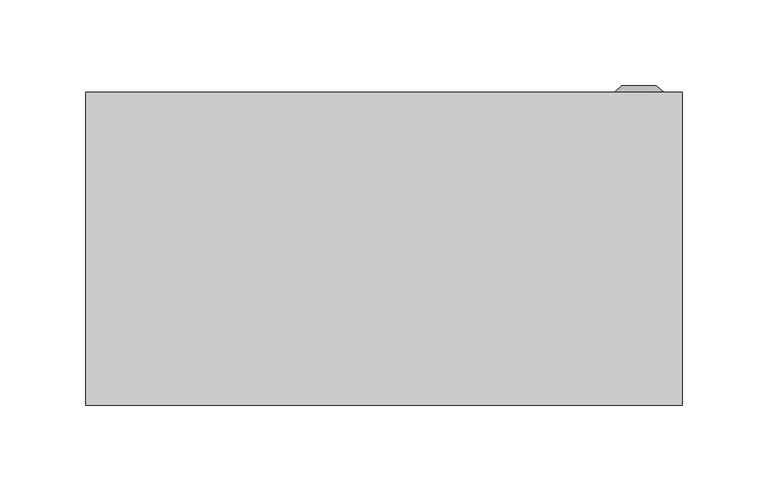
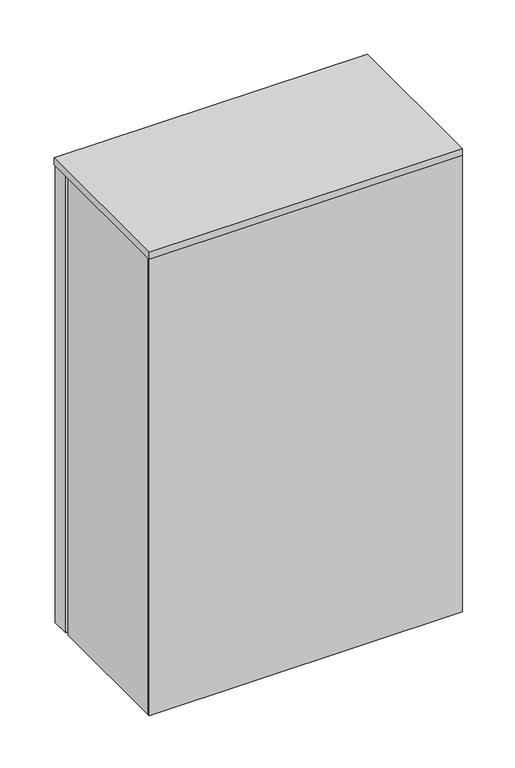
"""IFC4 building model written with IfcOpenShell, lengths in millimetres: proxy geometry, ЩУ-3ф_1-0-12_с опломбировкой_IP66 : ЩУ-3ф/1-0-12 с опломбировкой счетчика_IP66."""

from ifc_helpers import new_model, si_unit, point, frame, frame_2d, origin, origin_with_axes, place, context, project, spatial, polyline, circle_curve, trimmed, segment, composite_curve, outline, extrude, source, transform, mapped, element, save
from ifc_brep_helpers import plane_surface, cylinder_surface, revolved_surface, advanced_brep


def electrical_equipment_11ccc84e(model_context):
    return source(origin(), model_context, "Body", "SolidModel", [
        extrude(outline(polyline([(173.5, 0.0), (-173.5033905, 0.0), (-173.5033905, 182.366592), (173.5, 182.366592), (173.5, 0.0)])), frame((0.0, 0.0, 534.0), z_axis=(0.0, 0.0, 1.0), x_axis=(1.0, 0.0, 0.0)), (0.0, 0.0, 1.0), 8.0),
        extrude(outline(composite_curve([segment(trimmed(circle_curve(frame_2d((397.0, -13.5)), 5.0), [point((392.0, -13.5))], [point((397.0, -8.5))], False, "CARTESIAN"), True, "CONTINUOUS"), segment(polyline([(397.0, -8.5), (457.0, -8.5)]), True, "CONTINUOUS"), segment(trimmed(circle_curve(frame_2d((457.0, -13.5)), 5.0), [point((457.0, -8.5))], [point((462.0, -13.5))], False, "CARTESIAN"), True, "CONTINUOUS"), segment(polyline([(462.0, -13.5), (462.0, -113.5)]), True, "CONTINUOUS"), segment(trimmed(circle_curve(frame_2d((457.0, -113.5)), 5.0), [point((462.0, -113.5))], [point((457.0, -118.5))], False, "CARTESIAN"), True, "CONTINUOUS"), segment(polyline([(457.0, -118.5), (397.0, -118.5)]), True, "CONTINUOUS"), segment(trimmed(circle_curve(frame_2d((397.0, -113.5)), 5.0), [point((397.0, -118.5))], [point((392.0, -113.5))], False, "CARTESIAN"), True, "CONTINUOUS"), segment(polyline([(392.0, -113.5), (392.0, -13.5)]), True, "CONTINUOUS")], self_intersect=False)), frame((0.0, 178.0, 0.0), z_axis=(0.0, 1.0, 0.0), x_axis=(0.0, 0.0, 1.0)), (0.0, 0.0, 1.0), 2.0),
        advanced_brep(
        [(-173.5, 160.0, 534.0), (-173.5, 160.0, 0.0), (173.5, 160.0, 0.0), (173.5, 160.0, 534.0), (171.4966095, 160.0, 534.0), (171.4966095, 160.0, 2.0), (-171.5033905, 160.0, 2.0), (-171.5033905, 160.0, 534.0), (-173.5, 180.0, 534.0), (173.5, 180.0, 534.0), (173.5, 180.0, 0.0), (-173.5, 180.0, 0.0), (-113.5, 180.0, 462.0), (-118.5, 180.0, 457.0), (-118.5, 180.0, 397.0), (-113.5, 180.0, 392.0), (-13.5, 180.0, 392.0), (-8.5, 180.0, 397.0), (-8.5, 180.0, 457.0), (-13.5, 180.0, 462.0), (-171.5033905, 178.0, 534.0), (171.4966095, 178.0, 534.0), (-171.5033905, 178.0, 2.0), (171.4966095, 178.0, 2.0), (-113.5, 178.0, 462.0), (-13.5, 178.0, 462.0), (-8.5, 178.0, 457.0), (-8.5, 178.0, 397.0), (-13.5, 178.0, 392.0), (-113.5, 178.0, 392.0), (-118.5, 178.0, 397.0), (-118.5, 178.0, 457.0)],
        [
            (0, 1),
            (1, 2),
            (2, 3),
            (3, 4),
            (4, 5),
            (5, 6),
            (6, 7),
            (7, 0),
            (8, 9),
            (9, 10),
            (10, 11),
            (11, 8),
            (12, 13, circle_curve(frame((-113.5, 180.0, 457.0), z_axis=(0.0, -1.0, 0.0), x_axis=(1.0, 0.0, 0.0)), 5.0)),
            (13, 14),
            (14, 15, circle_curve(frame((-113.5, 180.0, 397.0), z_axis=(0.0, -1.0, 0.0), x_axis=(1.0, 0.0, 0.0)), 5.0)),
            (15, 16),
            (16, 17, circle_curve(frame((-13.5, 180.0, 397.0), z_axis=(0.0, -1.0, 0.0), x_axis=(1.0, 0.0, 0.0)), 5.0)),
            (17, 18),
            (18, 19, circle_curve(frame((-13.5, 180.0, 457.0), z_axis=(0.0, -1.0, 0.0), x_axis=(1.0, 0.0, 0.0)), 5.0)),
            (19, 12),
            (0, 8),
            (11, 1),
            (10, 2),
            (9, 3),
            (7, 20),
            (20, 21),
            (21, 4),
            (22, 23),
            (23, 21),
            (20, 22),
            (24, 25),
            (25, 26, circle_curve(frame((-13.5, 178.0, 457.0), z_axis=(0.0, 1.0, 0.0), x_axis=(1.0, 0.0, 0.0)), 5.0)),
            (26, 27),
            (27, 28, circle_curve(frame((-13.5, 178.0, 397.0), z_axis=(0.0, 1.0, 0.0), x_axis=(1.0, 0.0, 0.0)), 5.0)),
            (28, 29),
            (29, 30, circle_curve(frame((-113.5, 178.0, 397.0), z_axis=(0.0, 1.0, 0.0), x_axis=(1.0, 0.0, 0.0)), 5.0)),
            (30, 31),
            (31, 24, circle_curve(frame((-113.5, 178.0, 457.0), z_axis=(0.0, 1.0, 0.0), x_axis=(1.0, 0.0, 0.0)), 5.0)),
            (6, 22),
            (5, 23),
            (19, 25),
            (24, 12),
            (18, 26),
            (17, 27),
            (16, 28),
            (15, 29),
            (14, 30),
            (13, 31),
        ],
        [
            plane_surface(frame((-173.5, 160.0, 537.0), z_axis=(0.0, -1.0, 0.0), x_axis=(0.0, 0.0, -1.0))),
            plane_surface(frame((-173.5, 180.0, 537.0), z_axis=(0.0, 1.0, 0.0), x_axis=(0.0, 0.0, 1.0))),
            plane_surface(frame((-173.5, 160.0, 534.0), z_axis=(-1.0, 0.0, 0.0), x_axis=(0.0, 1.0, 0.0))),
            plane_surface(frame((-173.5, 160.0, 0.0), z_axis=(0.0, 0.0, -1.0), x_axis=(0.0, 1.0, 0.0))),
            plane_surface(frame((173.5, 160.0, 0.0), z_axis=(1.0, 0.0, 0.0), x_axis=(0.0, 1.0, 0.0))),
            plane_surface(frame((173.5, 160.0, 534.0), z_axis=(0.0, 0.0, 1.0), x_axis=(0.0, 1.0, 0.0))),
            plane_surface(frame((-171.5033905, 178.0, 540.0), z_axis=(0.0, -1.0, 0.0), x_axis=(0.0, 0.0, 1.0))),
            plane_surface(frame((-171.5033905, 160.0, 540.0), z_axis=(1.0, 0.0, 0.0), x_axis=(0.0, 1.0, 0.0))),
            plane_surface(frame((-171.5033905, 160.0, 2.0), z_axis=(0.0, 0.0, 1.0), x_axis=(0.0, 1.0, 0.0))),
            plane_surface(frame((171.4966095, 160.0, 2.0), z_axis=(-1.0, 0.0, 0.0), x_axis=(0.0, 1.0, 0.0))),
            plane_surface(frame((-113.5, 160.0, 462.0), z_axis=(0.0, 0.0, -1.0), x_axis=(0.0, 1.0, 0.0))),
            revolved_surface(polyline([(-8.5, 180.0, 457.0), (-8.5, 178.0, 457.0)]), (-13.5, 0.0, 457.0), (0.0, 1.0, 0.0)),
            plane_surface(frame((-8.5, 160.0, 457.0), z_axis=(-1.0, 0.0, 0.0), x_axis=(0.0, 1.0, 0.0))),
            revolved_surface(polyline([(-8.5, 180.0, 397.0), (-8.5, 178.0, 397.0)]), (-13.5, 0.0, 397.0), (0.0, 1.0, 0.0)),
            plane_surface(frame((-13.5, 160.0, 392.0), z_axis=(0.0, 0.0, 1.0), x_axis=(0.0, 1.0, 0.0))),
            revolved_surface(polyline([(-108.5, 180.0, 397.0), (-108.5, 178.0, 397.0)]), (-113.5, 0.0, 397.0), (0.0, 1.0, 0.0)),
            plane_surface(frame((-118.5, 160.0, 397.0), z_axis=(1.0, 0.0, 0.0), x_axis=(0.0, 1.0, 0.0))),
            revolved_surface(polyline([(-108.5, 180.0, 457.0), (-108.5, 178.0, 457.0)]), (-113.5, 0.0, 457.0), (0.0, 1.0, 0.0)),
        ],
        [
            (0, [[1, 2, 3, 4, 5, 6, 7, 8]]),
            (1, [[9, 10, 11, 12], [13, 14, 15, 16, 17, 18, 19, 20]]),
            (2, [[-1, 21, -12, 22]]),
            (3, [[-2, -22, -11, 23]]),
            (4, [[-3, -23, -10, 24]]),
            (5, [[-9, -21, -8, 25, 26, 27, -4, -24]]),
            (6, [[28, 29, -26, 30], [31, 32, 33, 34, 35, 36, 37, 38]]),
            (7, [[39, -30, -25, -7]]),
            (8, [[-28, -39, -6, 40]]),
            (9, [[-40, -5, -27, -29]]),
            (10, [[-20, 41, -31, 42]]),
            (11, [[-19, 43, -32, -41]]),
            (12, [[-18, 44, -33, -43]]),
            (13, [[-17, 45, -34, -44]]),
            (14, [[-16, 46, -35, -45]]),
            (15, [[-15, 47, -36, -46]]),
            (16, [[-14, 48, -37, -47]]),
            (17, [[-13, -42, -38, -48]]),
        ],
    ),
        extrude(outline(polyline([(534.0, -173.5033905), (0.0, -173.5033905), (0.0, 173.4966095), (534.0, 173.4966095), (534.0, -173.5033905)]), holes=[polyline([(517.0, -148.5033905), (517.0, 148.4966095), (25.0, 148.4966095), (25.0, -148.5033905), (517.0, -148.5033905)])]), frame((0.0, 2.0, 0.0), z_axis=(0.0, 1.0, 0.0), x_axis=(0.0, 0.0, 1.0)), (0.0, 0.0, 1.0), 153.0),
        extrude(outline(polyline([(173.5, 0.0), (-173.5, 0.0), (-173.5, 2.0), (173.5, 2.0), (173.5, 0.0)])), origin_with_axes(), (0.0, 0.0, 1.0), 534.0),
        extrude(outline(polyline([(168.5, 155.0), (-168.5, 155.0), (-168.5, 160.0), (168.5, 160.0), (168.5, 155.0)])), frame((0.0, 0.0, 5.0), z_axis=(0.0, 0.0, 1.0), x_axis=(1.0, 0.0, 0.0)), (0.0, 0.0, 1.0), 529.0),
        advanced_brep(
        [(134.169873, 180.0, 271.0), (162.830127, 180.0, 271.0), (148.5, 180.0, 271.0), (134.169873, 182.366592, 271.0), (162.830127, 182.366592, 271.0), (138.5, 186.0, 271.0), (158.5, 186.0, 271.0), (146.6080471, 186.0, 271.0), (150.3919529, 186.0, 271.0), (146.6080471, 184.9822294, 271.0), (150.3919529, 184.9822294, 271.0), (148.5, 184.9822294, 271.0)],
        [
            (0, 1, circle_curve(frame((148.5, 180.0, 271.0), z_axis=(0.0, -1.0, 0.0), x_axis=(1.0, 0.0, 0.0)), 14.330127)),
            (1, 2),
            (2, 0),
            (1, 0, circle_curve(frame((148.5, 180.0, 271.0), z_axis=(0.0, -1.0, 0.0), x_axis=(1.0, 0.0, 0.0)), 14.330127)),
            (3, 4, circle_curve(frame((148.5, 182.366592, 271.0), z_axis=(0.0, -1.0, 0.0), x_axis=(1.0, 0.0, 0.0)), 14.330127)),
            (4, 1),
            (0, 3),
            (4, 3, circle_curve(frame((148.5, 182.366592, 271.0), z_axis=(0.0, -1.0, 0.0), x_axis=(1.0, 0.0, 0.0)), 14.330127)),
            (5, 6, circle_curve(frame((148.5, 186.0, 271.0), z_axis=(0.0, -1.0, 0.0), x_axis=(1.0, 0.0, 0.0)), 10.0)),
            (6, 4),
            (3, 5),
            (6, 5, circle_curve(frame((148.5, 186.0, 271.0), z_axis=(0.0, -1.0, 0.0), x_axis=(1.0, 0.0, 0.0)), 10.0)),
            (7, 8, circle_curve(frame((148.5, 186.0, 271.0), z_axis=(0.0, -1.0, 0.0), x_axis=(1.0, 0.0, 0.0)), 1.8919529)),
            (8, 6),
            (5, 7),
            (8, 7, circle_curve(frame((148.5, 186.0, 271.0), z_axis=(0.0, -1.0, 0.0), x_axis=(1.0, 0.0, 0.0)), 1.8919529)),
            (9, 10, circle_curve(frame((148.5, 184.9822294, 271.0), z_axis=(0.0, -1.0, 0.0), x_axis=(1.0, 0.0, 0.0)), 1.8919529)),
            (10, 8),
            (7, 9),
            (10, 9, circle_curve(frame((148.5, 184.9822294, 271.0), z_axis=(0.0, -1.0, 0.0), x_axis=(1.0, 0.0, 0.0)), 1.8919529)),
            (11, 10),
            (9, 11),
        ],
        [
            plane_surface(frame((148.5, 180.0, 271.0), z_axis=(0.0, -1.0, 0.0), x_axis=(1.0, 0.0, 0.0))),
            cylinder_surface(frame((148.5, 193.1348851, 271.0), z_axis=(0.0, 1.0, 0.0), x_axis=(1.0, 0.0, 0.0)), 14.330127),
            revolved_surface(polyline([(162.830127, 182.366592, 271.0), (158.5, 186.0, 271.0)]), (148.5, 193.1348851, 271.0), (0.0, 1.0, 0.0)),
            plane_surface(frame((148.5, 186.0, 271.0), z_axis=(0.0, 1.0, 0.0), x_axis=(1.0, 0.0, 0.0))),
            revolved_surface(polyline([(150.3919529, 186.0, 271.0), (150.3919529, 184.9822294, 271.0)]), (148.5, 193.1348851, 271.0), (0.0, 1.0, 0.0)),
            plane_surface(frame((148.5, 184.9822294, 271.0), z_axis=(0.0, 1.0, 0.0), x_axis=(1.0, 0.0, 0.0))),
        ],
        [
            (0, [[1, 2, 3]]),
            (0, [[4, -3, -2]]),
            (1, [[5, 6, -1, 7]]),
            (1, [[8, -7, -4, -6]]),
            (2, [[9, 10, -5, 11]]),
            (2, [[12, -11, -8, -10]]),
            (3, [[13, 14, -9, 15]]),
            (3, [[16, -15, -12, -14]]),
            (4, [[17, 18, -13, 19]]),
            (4, [[20, -19, -16, -18]]),
            (5, [[21, -17, 22]]),
            (5, [[-22, -20, -21]]),
        ],
    ),
    ])


if __name__ == "__main__":
    model = new_model("IFC4")
    model_context = context("Model", 3, world=origin())
    ifc_project = project(units=[si_unit("LENGTHUNIT", "METRE", prefix="MILLI")], contexts=[model_context])
    site = spatial("IfcSite", under=ifc_project)
    building = spatial("IfcBuilding", under=site)
    placement = place(None, origin())
    electrical_equipment_shape = electrical_equipment_11ccc84e(model_context)
    element("IfcBuildingElementProxy", 1, Name="ЩУ-3ф_1-0-12_с опломбировкой_IP66 : ЩУ-3ф/1-0-12 с опломбировкой счетчика_IP66", ObjectType="ЩУ-3ф_1-0-12_с опломбировкой_IP66 : ЩУ-3ф/1-0-12 с опломбировкой счетчика_IP66", at=placement, inside=building, context=model_context, shape_type="MappedRepresentation", body=[
        mapped(electrical_equipment_shape, transform((0.0, 0.0, 0.0), x_axis=(1.0, 0.0, 0.0), y_axis=(0.0, 1.0, 0.0), z_axis=(0.0, 0.0, 1.0))),
    ])
    save(model, "model.ifc")
